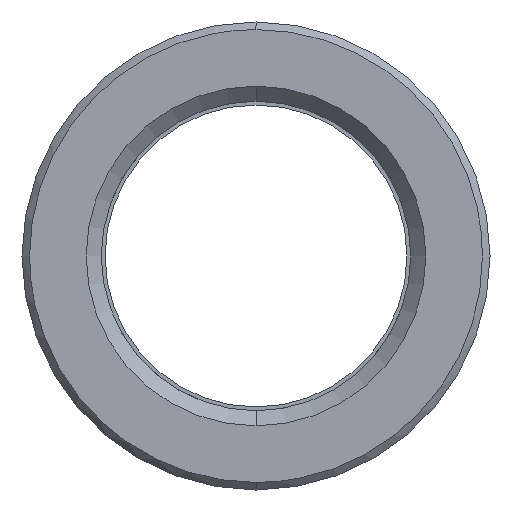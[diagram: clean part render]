
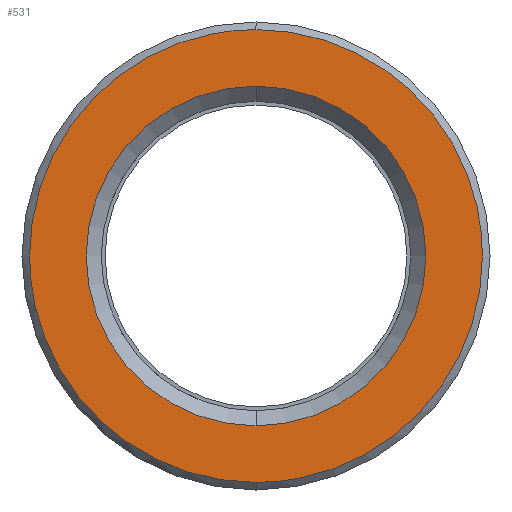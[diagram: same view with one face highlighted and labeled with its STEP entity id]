
A CAD part, left-side view. The second image highlights one B-rep face of the part: STEP entity #531.
In plain terms, the highlighted planar face has unit normal (-1, 0, 0).
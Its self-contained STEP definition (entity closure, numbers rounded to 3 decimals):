
#311=CARTESIAN_POINT('Axis2P3D Location',(0.,0.,0.)) ;
#315=CARTESIAN_POINT('Vertex',(0.,11.25,0.)) ;
#317=CARTESIAN_POINT('Vertex',(0.,0.,11.25)) ;
#320=CARTESIAN_POINT('Axis2P3D Location',(0.,0.,0.)) ;
#324=CARTESIAN_POINT('Vertex',(0.,0.,-11.25)) ;
#351=CARTESIAN_POINT('Axis2P3D Location',(0.,0.,0.)) ;
#355=CARTESIAN_POINT('Vertex',(0.,-11.25,0.)) ;
#358=CARTESIAN_POINT('Axis2P3D Location',(0.,0.,0.)) ;
#438=CARTESIAN_POINT('Axis2P3D Location',(0.,15.,0.)) ;
#444=CARTESIAN_POINT('Control Point',(0.,0.,-15.)) ;
#445=CARTESIAN_POINT('Control Point',(0.,1.359,-15.)) ;
#446=CARTESIAN_POINT('Control Point',(0.,2.718,-14.846)) ;
#447=CARTESIAN_POINT('Control Point',(0.,4.054,-14.538)) ;
#448=CARTESIAN_POINT('Control Point',(0.,6.784,-13.572)) ;
#449=CARTESIAN_POINT('Control Point',(0.,9.211,-11.985)) ;
#450=CARTESIAN_POINT('Control Point',(0.,10.379,-10.99)) ;
#451=CARTESIAN_POINT('Control Point',(0.,12.437,-8.725)) ;
#452=CARTESIAN_POINT('Control Point',(0.,13.866,-6.019)) ;
#453=CARTESIAN_POINT('Control Point',(0.,14.405,-4.583)) ;
#454=CARTESIAN_POINT('Control Point',(0.,14.829,-2.782)) ;
#455=CARTESIAN_POINT('Control Point',(0.,14.975,-0.952)) ;
#456=CARTESIAN_POINT('Control Point',(0.,14.992,-0.635)) ;
#457=CARTESIAN_POINT('Control Point',(0.,15.,-0.317)) ;
#458=CARTESIAN_POINT('Control Point',(0.,15.,0.)) ;
#459=CARTESIAN_POINT('Vertex',(0.,0.,-15.)) ;
#461=CARTESIAN_POINT('Vertex',(0.,15.,0.)) ;
#465=CARTESIAN_POINT('Control Point',(0.,-15.,0.)) ;
#466=CARTESIAN_POINT('Control Point',(0.,-15.,-1.518)) ;
#467=CARTESIAN_POINT('Control Point',(0.,-14.808,-3.036)) ;
#468=CARTESIAN_POINT('Control Point',(0.,-14.424,-4.521)) ;
#469=CARTESIAN_POINT('Control Point',(0.,-13.289,-7.363)) ;
#470=CARTESIAN_POINT('Control Point',(0.,-11.481,-9.832)) ;
#471=CARTESIAN_POINT('Control Point',(0.,-10.425,-10.945)) ;
#472=CARTESIAN_POINT('Control Point',(0.,-8.055,-12.881)) ;
#473=CARTESIAN_POINT('Control Point',(0.,-5.278,-14.165)) ;
#474=CARTESIAN_POINT('Control Point',(0.,-3.815,-14.627)) ;
#475=CARTESIAN_POINT('Control Point',(0.,-2.152,-14.927)) ;
#476=CARTESIAN_POINT('Control Point',(0.,-0.476,-14.994)) ;
#477=CARTESIAN_POINT('Control Point',(0.,-0.317,-14.998)) ;
#478=CARTESIAN_POINT('Control Point',(0.,-0.159,-15.)) ;
#479=CARTESIAN_POINT('Control Point',(0.,0.,-15.)) ;
#480=CARTESIAN_POINT('Vertex',(0.,-15.,0.)) ;
#484=CARTESIAN_POINT('Control Point',(0.,0.,15.)) ;
#485=CARTESIAN_POINT('Control Point',(0.,-1.359,15.)) ;
#486=CARTESIAN_POINT('Control Point',(0.,-2.718,14.846)) ;
#487=CARTESIAN_POINT('Control Point',(0.,-4.054,14.538)) ;
#488=CARTESIAN_POINT('Control Point',(0.,-6.784,13.572)) ;
#489=CARTESIAN_POINT('Control Point',(0.,-9.211,11.985)) ;
#490=CARTESIAN_POINT('Control Point',(0.,-10.379,10.99)) ;
#491=CARTESIAN_POINT('Control Point',(0.,-12.437,8.725)) ;
#492=CARTESIAN_POINT('Control Point',(0.,-13.866,6.019)) ;
#493=CARTESIAN_POINT('Control Point',(0.,-14.405,4.583)) ;
#494=CARTESIAN_POINT('Control Point',(0.,-14.829,2.782)) ;
#495=CARTESIAN_POINT('Control Point',(0.,-14.975,0.952)) ;
#496=CARTESIAN_POINT('Control Point',(0.,-14.992,0.635)) ;
#497=CARTESIAN_POINT('Control Point',(0.,-15.,0.317)) ;
#498=CARTESIAN_POINT('Control Point',(0.,-15.,0.)) ;
#499=CARTESIAN_POINT('Vertex',(0.,0.,15.)) ;
#503=CARTESIAN_POINT('Control Point',(0.,15.,0.)) ;
#504=CARTESIAN_POINT('Control Point',(0.,15.,1.518)) ;
#505=CARTESIAN_POINT('Control Point',(0.,14.808,3.036)) ;
#506=CARTESIAN_POINT('Control Point',(0.,14.424,4.521)) ;
#507=CARTESIAN_POINT('Control Point',(0.,13.289,7.363)) ;
#508=CARTESIAN_POINT('Control Point',(0.,11.481,9.832)) ;
#509=CARTESIAN_POINT('Control Point',(0.,10.425,10.945)) ;
#510=CARTESIAN_POINT('Control Point',(0.,8.055,12.881)) ;
#511=CARTESIAN_POINT('Control Point',(0.,5.278,14.165)) ;
#512=CARTESIAN_POINT('Control Point',(0.,3.815,14.627)) ;
#513=CARTESIAN_POINT('Control Point',(0.,2.152,14.927)) ;
#514=CARTESIAN_POINT('Control Point',(0.,0.476,14.994)) ;
#515=CARTESIAN_POINT('Control Point',(0.,0.317,14.998)) ;
#516=CARTESIAN_POINT('Control Point',(0.,0.159,15.)) ;
#517=CARTESIAN_POINT('Control Point',(0.,0.,15.)) ;
#312=DIRECTION('Axis2P3D Direction',(-1.,0.,0.)) ;
#321=DIRECTION('Axis2P3D Direction',(-1.,0.,0.)) ;
#352=DIRECTION('Axis2P3D Direction',(-1.,0.,0.)) ;
#359=DIRECTION('Axis2P3D Direction',(-1.,0.,0.)) ;
#439=DIRECTION('Axis2P3D Direction',(-1.,0.,0.)) ;
#440=DIRECTION('Axis2P3D XDirection',(0.,0.,1.)) ;
#313=AXIS2_PLACEMENT_3D('Circle Axis2P3D',#311,#312,$) ;
#322=AXIS2_PLACEMENT_3D('Circle Axis2P3D',#320,#321,$) ;
#353=AXIS2_PLACEMENT_3D('Circle Axis2P3D',#351,#352,$) ;
#360=AXIS2_PLACEMENT_3D('Circle Axis2P3D',#358,#359,$) ;
#441=AXIS2_PLACEMENT_3D('Plane Axis2P3D',#438,#439,#440) ;
#520=ORIENTED_EDGE('',*,*,#463,.F.) ;
#521=ORIENTED_EDGE('',*,*,#482,.F.) ;
#522=ORIENTED_EDGE('',*,*,#501,.F.) ;
#523=ORIENTED_EDGE('',*,*,#518,.F.) ;
#526=ORIENTED_EDGE('',*,*,#319,.T.) ;
#527=ORIENTED_EDGE('',*,*,#362,.T.) ;
#528=ORIENTED_EDGE('',*,*,#357,.T.) ;
#529=ORIENTED_EDGE('',*,*,#326,.T.) ;
#530=FACE_BOUND('',#525,.T.) ;
#531=ADVANCED_FACE('553-20X76',(#524,#530),#442,.T.) ;
#443=B_SPLINE_CURVE_WITH_KNOTS('',5,(#444,#445,#446,#447,#448,#449,#450,#451,#452,#453,#454,#455,#456,#457,#458),.UNSPECIFIED.,.F.,.U.,(6,3,3,3,6),(33.321,42.932,53.665,64.398,66.642),.UNSPECIFIED.) ;
#464=B_SPLINE_CURVE_WITH_KNOTS('',5,(#465,#466,#467,#468,#469,#470,#471,#472,#473,#474,#475,#476,#477,#478,#479),.UNSPECIFIED.,.F.,.U.,(6,3,3,3,6),(0.,10.733,21.466,32.199,33.321),.UNSPECIFIED.) ;
#483=B_SPLINE_CURVE_WITH_KNOTS('',5,(#484,#485,#486,#487,#488,#489,#490,#491,#492,#493,#494,#495,#496,#497,#498),.UNSPECIFIED.,.F.,.U.,(6,3,3,3,6),(33.321,42.932,53.665,64.398,66.642),.UNSPECIFIED.) ;
#502=B_SPLINE_CURVE_WITH_KNOTS('',5,(#503,#504,#505,#506,#507,#508,#509,#510,#511,#512,#513,#514,#515,#516,#517),.UNSPECIFIED.,.F.,.U.,(6,3,3,3,6),(0.,10.733,21.466,32.199,33.321),.UNSPECIFIED.) ;
#314=CIRCLE('generated circle',#313,11.25) ;
#323=CIRCLE('generated circle',#322,11.25) ;
#354=CIRCLE('generated circle',#353,11.25) ;
#361=CIRCLE('generated circle',#360,11.25) ;
#319=EDGE_CURVE('',#316,#318,#314,.F.) ;
#326=EDGE_CURVE('',#325,#316,#323,.F.) ;
#357=EDGE_CURVE('',#356,#325,#354,.F.) ;
#362=EDGE_CURVE('',#318,#356,#361,.F.) ;
#463=EDGE_CURVE('',#460,#462,#443,.T.) ;
#482=EDGE_CURVE('',#481,#460,#464,.T.) ;
#501=EDGE_CURVE('',#500,#481,#483,.T.) ;
#518=EDGE_CURVE('',#462,#500,#502,.T.) ;
#519=EDGE_LOOP('',(#520,#521,#522,#523)) ;
#525=EDGE_LOOP('',(#526,#527,#528,#529)) ;
#524=FACE_OUTER_BOUND('',#519,.T.) ;
#442=PLANE('Plane',#441) ;
#316=VERTEX_POINT('',#315) ;
#318=VERTEX_POINT('',#317) ;
#325=VERTEX_POINT('',#324) ;
#356=VERTEX_POINT('',#355) ;
#460=VERTEX_POINT('',#459) ;
#462=VERTEX_POINT('',#461) ;
#481=VERTEX_POINT('',#480) ;
#500=VERTEX_POINT('',#499) ;
